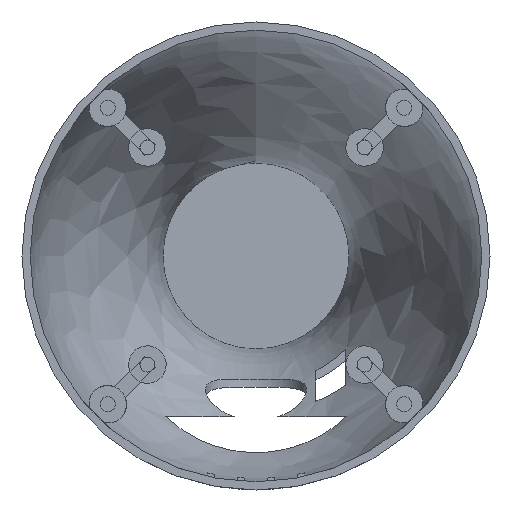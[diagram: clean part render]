
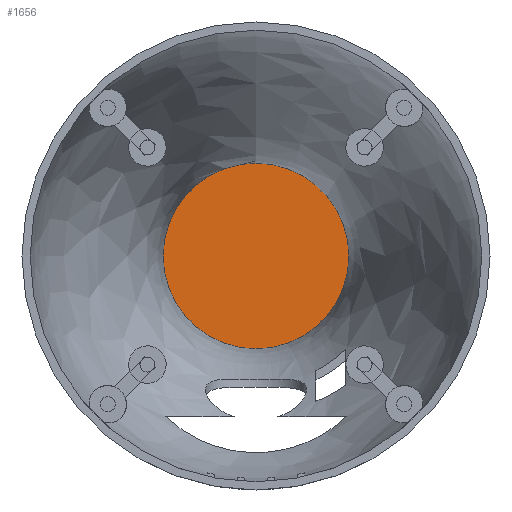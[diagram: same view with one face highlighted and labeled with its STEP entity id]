
A CAD part, front view. The second image highlights one B-rep face of the part: STEP entity #1656.
In plain terms, the highlighted planar face has unit normal (0, -1, 0).
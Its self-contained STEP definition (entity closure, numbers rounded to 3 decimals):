
#230=PLANE('',#1808);
#315=FACE_OUTER_BOUND('',#437,.T.);
#437=EDGE_LOOP('',(#1205));
#610=CIRCLE('',#1777,24.82);
#720=VERTEX_POINT('',#2581);
#887=EDGE_CURVE('',#720,#720,#610,.T.);
#1205=ORIENTED_EDGE('',*,*,#887,.T.);
#1656=ADVANCED_FACE('',(#315),#230,.F.);
#1777=AXIS2_PLACEMENT_3D('',#2586,#1995,#1996);
#1808=AXIS2_PLACEMENT_3D('',#3068,#2058,#2059);
#1995=DIRECTION('center_axis',(0.,-1.,0.));
#1996=DIRECTION('ref_axis',(0.588,0.,0.809));
#2058=DIRECTION('center_axis',(0.,1.,0.));
#2059=DIRECTION('ref_axis',(0.,0.,1.));
#2581=CARTESIAN_POINT('',(0.,35.5,477.82));
#2586=CARTESIAN_POINT('Origin',(0.,35.5,453.));
#3068=CARTESIAN_POINT('Origin',(0.,35.5,453.));
